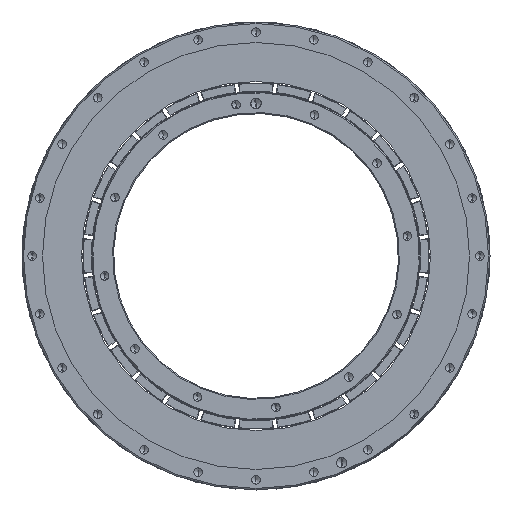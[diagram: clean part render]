
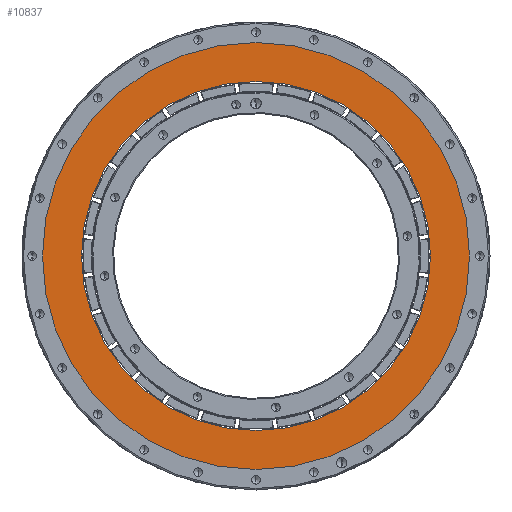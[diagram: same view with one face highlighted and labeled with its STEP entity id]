
A CAD part, front view. The second image highlights one B-rep face of the part: STEP entity #10837.
In plain terms, the highlighted planar face has unit normal (0, -1, 0).
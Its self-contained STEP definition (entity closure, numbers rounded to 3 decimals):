
#336 = DIRECTION ( 'NONE',  ( 0., 0., 1. ) ) ;
#2107 = CARTESIAN_POINT ( 'NONE',  ( 0., -54., -85.765 ) ) ;
#3361 = DIRECTION ( 'NONE',  ( 0., 0., 1. ) ) ;
#4756 = VERTEX_POINT ( 'NONE', #26964 ) ;
#9115 = FACE_OUTER_BOUND ( 'NONE', #10850, .T. ) ;
#9767 = DIRECTION ( 'NONE',  ( 0., 0., 1. ) ) ;
#9962 = CARTESIAN_POINT ( 'NONE',  ( 0., -54., 0. ) ) ;
#10393 = FACE_BOUND ( 'NONE', #13995, .T. ) ;
#10635 = CARTESIAN_POINT ( 'NONE',  ( 0., -54., 85.765 ) ) ;
#10837 = ADVANCED_FACE ( 'NONE', ( #9115, #10393 ), #12705, .F. ) ;
#10850 = EDGE_LOOP ( 'NONE', ( #35773, #18184 ) ) ;
#11521 = CIRCLE ( 'NONE', #31445, 104.935 ) ;
#12705 = PLANE ( 'NONE',  #21920 ) ;
#12765 = CARTESIAN_POINT ( 'NONE',  ( 0., -54., 0. ) ) ;
#12787 = VERTEX_POINT ( 'NONE', #2107 ) ;
#13578 = CIRCLE ( 'NONE', #34703, 85.765 ) ;
#13995 = EDGE_LOOP ( 'NONE', ( #18837, #19341 ) ) ;
#14768 = DIRECTION ( 'NONE',  ( 0., 1., 0. ) ) ;
#16080 = EDGE_CURVE ( 'NONE', #4756, #22432, #11521, .T. ) ;
#16304 = DIRECTION ( 'NONE',  ( 0., 0., 1. ) ) ;
#17247 = CIRCLE ( 'NONE', #37245, 104.935 ) ;
#17895 = AXIS2_PLACEMENT_3D ( 'NONE', #9962, #36153, #9767 ) ;
#18184 = ORIENTED_EDGE ( 'NONE', *, *, #16080, .F. ) ;
#18480 = DIRECTION ( 'NONE',  ( 0., 1., 0. ) ) ;
#18837 = ORIENTED_EDGE ( 'NONE', *, *, #29026, .T. ) ;
#19341 = ORIENTED_EDGE ( 'NONE', *, *, #25946, .T. ) ;
#20610 = CARTESIAN_POINT ( 'NONE',  ( 0., -54., 0. ) ) ;
#21920 = AXIS2_PLACEMENT_3D ( 'NONE', #22002, #27459, #16304 ) ;
#22002 = CARTESIAN_POINT ( 'NONE',  ( 0., -54., 0. ) ) ;
#22432 = VERTEX_POINT ( 'NONE', #34077 ) ;
#23509 = CARTESIAN_POINT ( 'NONE',  ( 0., -54., 0. ) ) ;
#25946 = EDGE_CURVE ( 'NONE', #32338, #12787, #13578, .T. ) ;
#26964 = CARTESIAN_POINT ( 'NONE',  ( 0., -54., 104.935 ) ) ;
#26965 = DIRECTION ( 'NONE',  ( 0., 0., 1. ) ) ;
#27459 = DIRECTION ( 'NONE',  ( 0., 1., 0. ) ) ;
#29026 = EDGE_CURVE ( 'NONE', #12787, #32338, #34171, .T. ) ;
#31445 = AXIS2_PLACEMENT_3D ( 'NONE', #20610, #35339, #3361 ) ;
#32338 = VERTEX_POINT ( 'NONE', #10635 ) ;
#34077 = CARTESIAN_POINT ( 'NONE',  ( 0., -54., -104.935 ) ) ;
#34171 = CIRCLE ( 'NONE', #17895, 85.765 ) ;
#34703 = AXIS2_PLACEMENT_3D ( 'NONE', #12765, #18480, #26965 ) ;
#35339 = DIRECTION ( 'NONE',  ( 0., 1., 0. ) ) ;
#35773 = ORIENTED_EDGE ( 'NONE', *, *, #36193, .F. ) ;
#36153 = DIRECTION ( 'NONE',  ( 0., 1., 0. ) ) ;
#36193 = EDGE_CURVE ( 'NONE', #22432, #4756, #17247, .T. ) ;
#37245 = AXIS2_PLACEMENT_3D ( 'NONE', #23509, #14768, #336 ) ;
